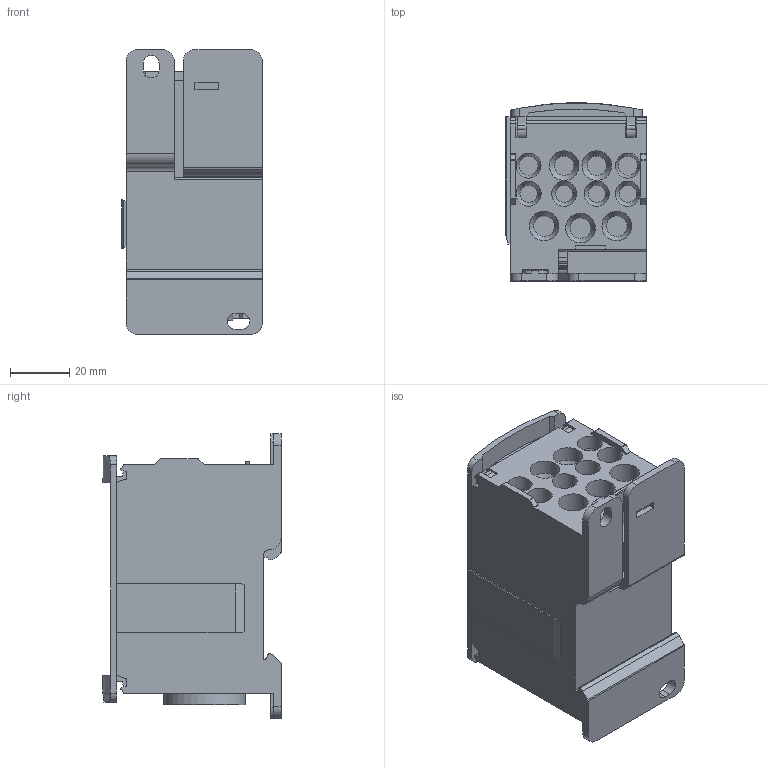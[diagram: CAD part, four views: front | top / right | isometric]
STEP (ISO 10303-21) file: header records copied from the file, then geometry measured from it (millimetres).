
FILE_DESCRIPTION(/* description */ ('Unknown'),/* implementation_level */ '2;1');
FILE_NAME(/* name */ '9D01_5_400_0111',/* time_stamp */ '2022-11-29T14:57:17+01:00',/* author */ ('Unknown'),/* organization */ ('Unknown'),/* preprocessor_version */ 'ST-DEVELOPER v16.7',/* originating_system */ 'DEX',/* authorisation */ $);
FILE_SCHEMA (('AUTOMOTIVE_DESIGN {1 0 10303 214 3 1 1}'));
Length unit declared in the file: millimetre
Products named in the file (1): 9D01_5_400_0111
Bounding box: 47.5 x 60.1 x 96 mm (x, y, z)
Volume: 171933 mm3; surface area: 36535.3 mm2
Topology: 1 solids, 1 shells, 387 faces, 1086 edges, 712 vertices
Faces by surface type: plane 220, cylinder 155, cone 12
Full cylindrical faces by diameter (mm): 8.4 x2, 8.5 x4, 10 x5, 23.5 x1, 27.5 x1
Entity records: 12323 total; most frequent: CARTESIAN_POINT 2255, DIRECTION 2119, ORIENTED_EDGE 2082, EDGE_CURVE 1041, LINE 719, VECTOR 719, AXIS2_PLACEMENT_3D 700, VERTEX_POINT 692
